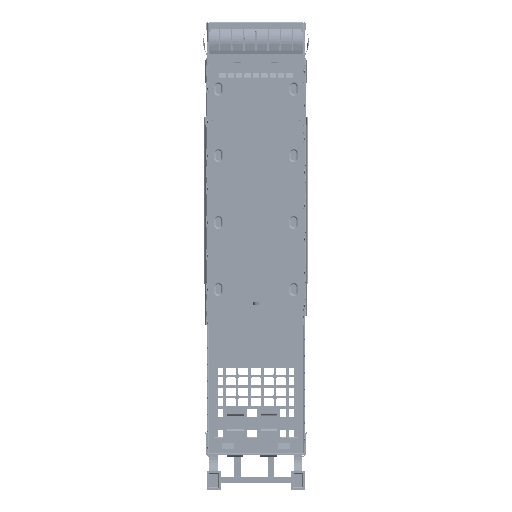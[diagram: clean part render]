
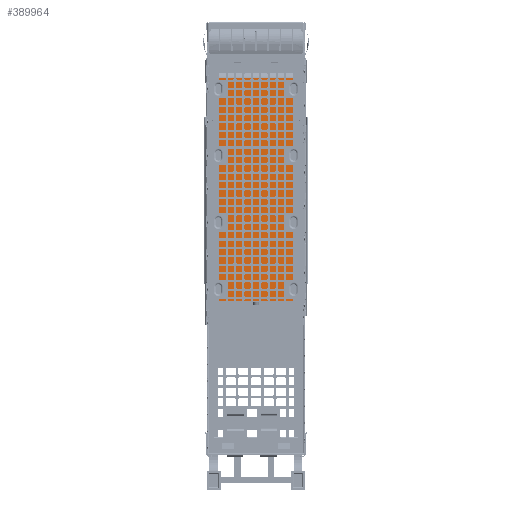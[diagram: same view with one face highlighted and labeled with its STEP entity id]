
A CAD part, front view. The second image highlights one B-rep face of the part: STEP entity #389964.
In plain terms, the highlighted planar face has unit normal (0, -1, 0).
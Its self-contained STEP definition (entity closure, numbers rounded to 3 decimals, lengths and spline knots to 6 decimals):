
#144642=DIRECTION('',(-1.,0.,0.));
#144643=VECTOR('',#144642,0.01785);
#144644=CARTESIAN_POINT('',(0.068856,0.01685,
-0.004877));
#144645=LINE('',#144644,#144643);
#144650=DIRECTION('',(-1.,0.,0.));
#144651=VECTOR('',#144650,0.01685);
#144652=CARTESIAN_POINT('',(0.068356,0.01685,
-0.0582));
#144653=LINE('',#144652,#144651);
#144654=CARTESIAN_POINT('',(0.051506,0.01685,
-0.0577));
#144655=DIRECTION('',(0.,1.,0.));
#144656=DIRECTION('',(0.,0.,-1.));
#144657=AXIS2_PLACEMENT_3D('',#144654,#144655,#144656);
#144659=DIRECTION('',(0.,0.,1.));
#144660=VECTOR('',#144659,0.052823);
#144661=CARTESIAN_POINT('',(0.051006,0.01685,
-0.0577));
#144662=LINE('',#144661,#144660);
#144663=CARTESIAN_POINT('',(0.068356,0.01685,
-0.0577));
#144664=DIRECTION('',(0.,1.,0.));
#144665=DIRECTION('',(1.,0.,0.));
#144666=AXIS2_PLACEMENT_3D('',#144663,#144664,#144665);
#144696=DIRECTION('',(0.,0.,1.));
#144697=VECTOR('',#144696,0.052823);
#144698=CARTESIAN_POINT('',(0.068856,0.01685,
-0.0577));
#144699=LINE('',#144698,#144697);
#195040=CARTESIAN_POINT('',(0.051006,0.01685,
-0.004877));
#195041=VERTEX_POINT('',#195040);
#195042=CARTESIAN_POINT('',(0.051006,0.01685,
-0.0577));
#195043=VERTEX_POINT('',#195042);
#195044=CARTESIAN_POINT('',(0.068856,0.01685,
-0.004877));
#195045=VERTEX_POINT('',#195044);
#195046=CARTESIAN_POINT('',(0.068356,0.01685,
-0.0582));
#195047=CARTESIAN_POINT('',(0.051506,0.01685,
-0.0582));
#195048=VERTEX_POINT('',#195046);
#195049=VERTEX_POINT('',#195047);
#195050=CARTESIAN_POINT('',(0.068856,0.01685,
-0.0577));
#195051=VERTEX_POINT('',#195050);
#389947=CARTESIAN_POINT('',(0.051006,0.01685,
-0.004877));
#389948=DIRECTION('',(0.,-1.,0.));
#389949=DIRECTION('',(0.,0.,-1.));
#389950=AXIS2_PLACEMENT_3D('',#389947,#389948,#389949);
#389951=PLANE('',#389950);
#389953=ORIENTED_EDGE('',*,*,#389952,.T.);
#389955=ORIENTED_EDGE('',*,*,#389954,.T.);
#389956=ORIENTED_EDGE('',*,*,#389926,.T.);
#389957=ORIENTED_EDGE('',*,*,#389938,.F.);
#389959=ORIENTED_EDGE('',*,*,#389958,.F.);
#389961=ORIENTED_EDGE('',*,*,#389960,.T.);
#389962=EDGE_LOOP('',(#389953,#389955,#389956,#389957,#389959,#389961));
#389963=FACE_OUTER_BOUND('',#389962,.F.);
#389964=ADVANCED_FACE('',(#389963),#389951,.T.);
#144658=CIRCLE('',#144657,0.0005);
#144667=CIRCLE('',#144666,0.0005);
#389926=EDGE_CURVE('',#195043,#195041,#144662,.T.);
#389938=EDGE_CURVE('',#195045,#195041,#144645,.T.);
#389952=EDGE_CURVE('',#195048,#195049,#144653,.T.);
#389954=EDGE_CURVE('',#195049,#195043,#144658,.T.);
#389958=EDGE_CURVE('',#195051,#195045,#144699,.T.);
#389960=EDGE_CURVE('',#195051,#195048,#144667,.T.);
